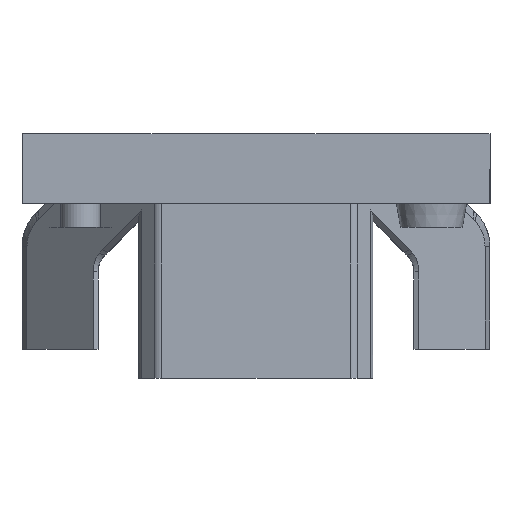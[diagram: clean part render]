
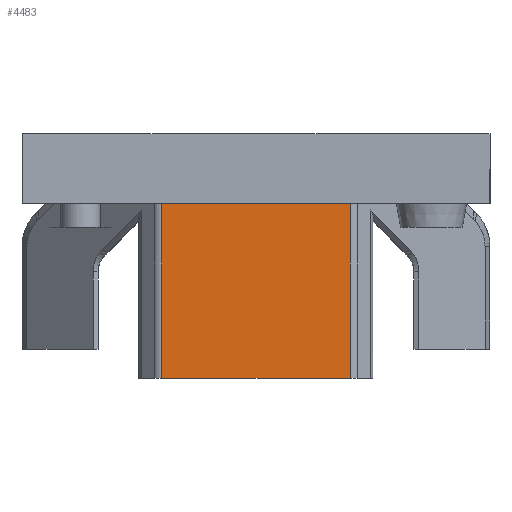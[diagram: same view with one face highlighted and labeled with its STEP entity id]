
A CAD part, front view. The second image highlights one B-rep face of the part: STEP entity #4483.
In plain terms, the highlighted planar face has unit normal (0, -1, 0).
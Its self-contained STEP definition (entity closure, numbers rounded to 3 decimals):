
#152=PLANE('',#4761);
#355=FACE_OUTER_BOUND('',#612,.T.);
#612=EDGE_LOOP('',(#3477,#3478,#3479,#3480));
#1190=LINE('',#7823,#1598);
#1195=LINE('',#7848,#1603);
#1196=LINE('',#7851,#1604);
#1197=LINE('',#7852,#1605);
#1598=VECTOR('',#5335,10.);
#1603=VECTOR('',#5358,10.);
#1604=VECTOR('',#5361,10.);
#1605=VECTOR('',#5362,10.);
#2051=VERTEX_POINT('',#7820);
#2052=VERTEX_POINT('',#7822);
#2063=VERTEX_POINT('',#7846);
#2064=VERTEX_POINT('',#7850);
#2583=EDGE_CURVE('',#2051,#2052,#1190,.T.);
#2596=EDGE_CURVE('',#2063,#2051,#1195,.T.);
#2597=EDGE_CURVE('',#2064,#2063,#1196,.T.);
#2598=EDGE_CURVE('',#2052,#2064,#1197,.T.);
#3477=ORIENTED_EDGE('',*,*,#2596,.F.);
#3478=ORIENTED_EDGE('',*,*,#2597,.F.);
#3479=ORIENTED_EDGE('',*,*,#2598,.F.);
#3480=ORIENTED_EDGE('',*,*,#2583,.F.);
#4483=ADVANCED_FACE('',(#355),#152,.T.);
#4761=AXIS2_PLACEMENT_3D('',#7849,#5359,#5360);
#5335=DIRECTION('',(-1.,0.,0.));
#5358=DIRECTION('',(0.,0.,-1.));
#5359=DIRECTION('center_axis',(0.,-1.,0.));
#5360=DIRECTION('ref_axis',(-1.,0.,0.));
#5361=DIRECTION('',(1.,0.,0.));
#5362=DIRECTION('',(0.,0.,1.));
#7820=CARTESIAN_POINT('',(-11.931,-25.3,21.6));
#7822=CARTESIAN_POINT('',(-28.069,-25.3,21.6));
#7823=CARTESIAN_POINT('',(-30.,-25.3,21.6));
#7846=CARTESIAN_POINT('',(-11.931,-25.3,36.525));
#7848=CARTESIAN_POINT('',(-11.931,-25.3,36.525));
#7849=CARTESIAN_POINT('Origin',(-10.,-25.3,36.525));
#7850=CARTESIAN_POINT('',(-28.069,-25.3,36.525));
#7851=CARTESIAN_POINT('',(-15.8,-25.3,36.525));
#7852=CARTESIAN_POINT('',(-28.069,-25.3,36.525));
